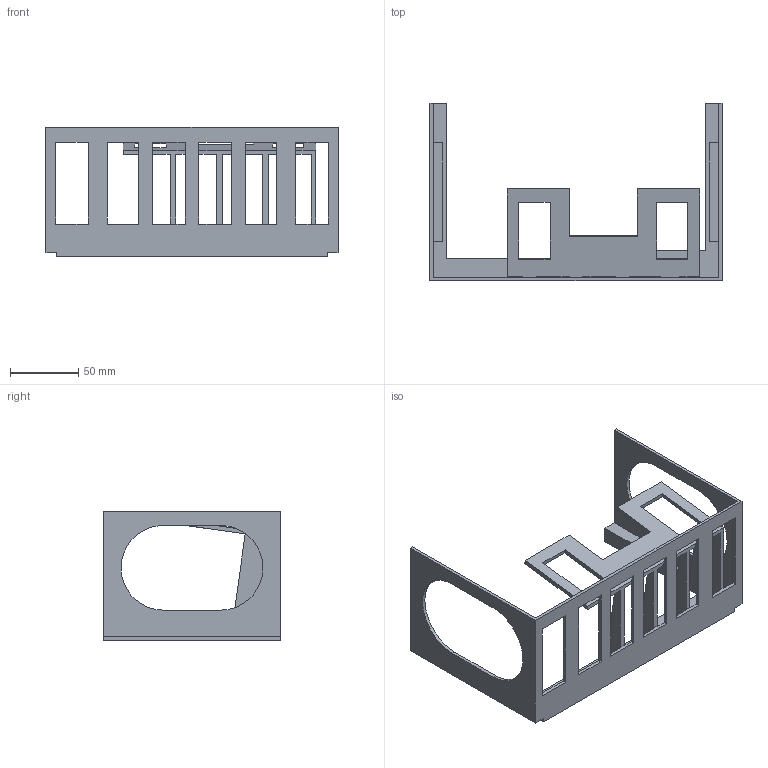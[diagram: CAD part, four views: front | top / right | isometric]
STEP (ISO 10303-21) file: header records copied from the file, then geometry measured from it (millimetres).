
FILE_DESCRIPTION(('Open CASCADE Model'),'2;1');
FILE_NAME('Open CASCADE Shape Model','2026-10-27T20:43:00',('Author'),( 'Open CASCADE'),'Open CASCADE STEP processor 7.9','Open CASCADE 7.9' ,'Unknown');
FILE_SCHEMA(('AUTOMOTIVE_DESIGN { 1 0 10303 214 1 1 1 1 }'));
Length unit declared in the file: millimetre
Products named in the file (1): Open CASCADE STEP translator 7.9 1
Bounding box: 214 x 130 x 95 mm (x, y, z)
Volume: 115772.4 mm3; surface area: 91342.5 mm2
Topology: 1 solids, 1 shells, 116 faces, 381 edges, 252 vertices
Faces by surface type: plane 108, cylinder 8
Full cylindrical faces by diameter (mm): 4 x4
Entity records: 8817 total; most frequent: CARTESIAN_POINT 1927, DIRECTION 1038, LINE 768, VECTOR 768, ORIENTED_EDGE 762, PCURVE 762, DEFINITIONAL_REPRESENTATION 762, EDGE_CURVE 381
